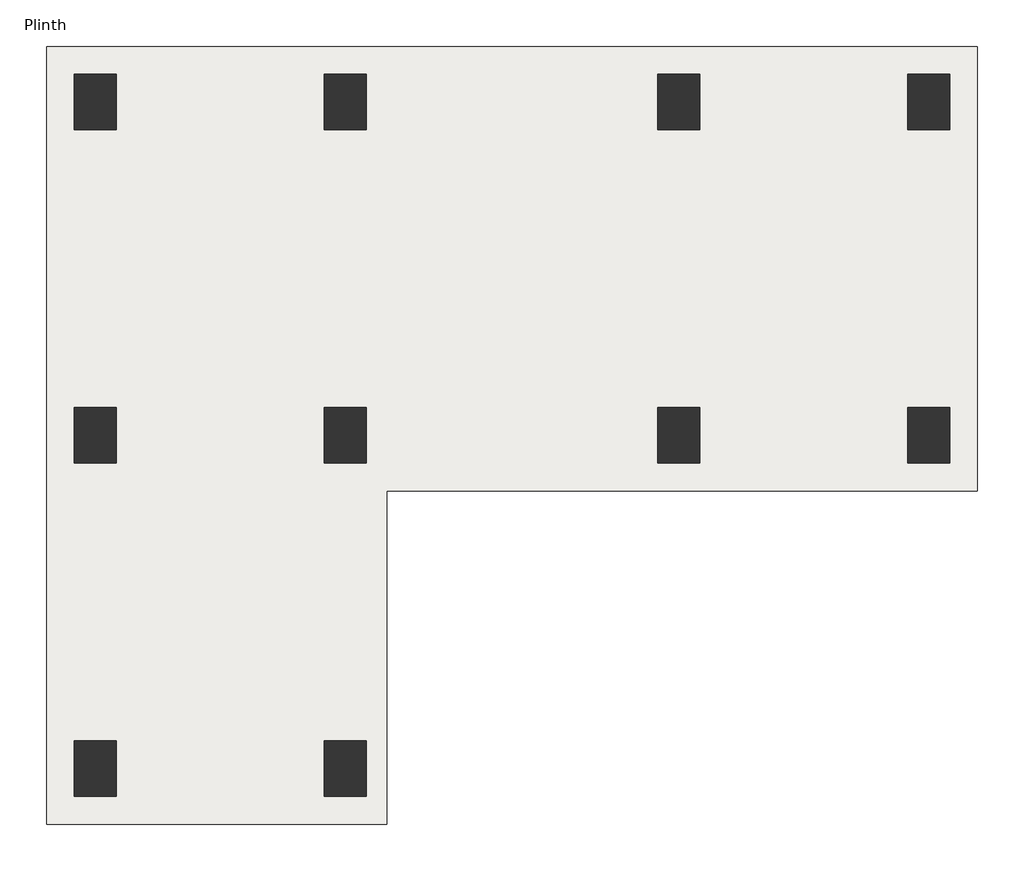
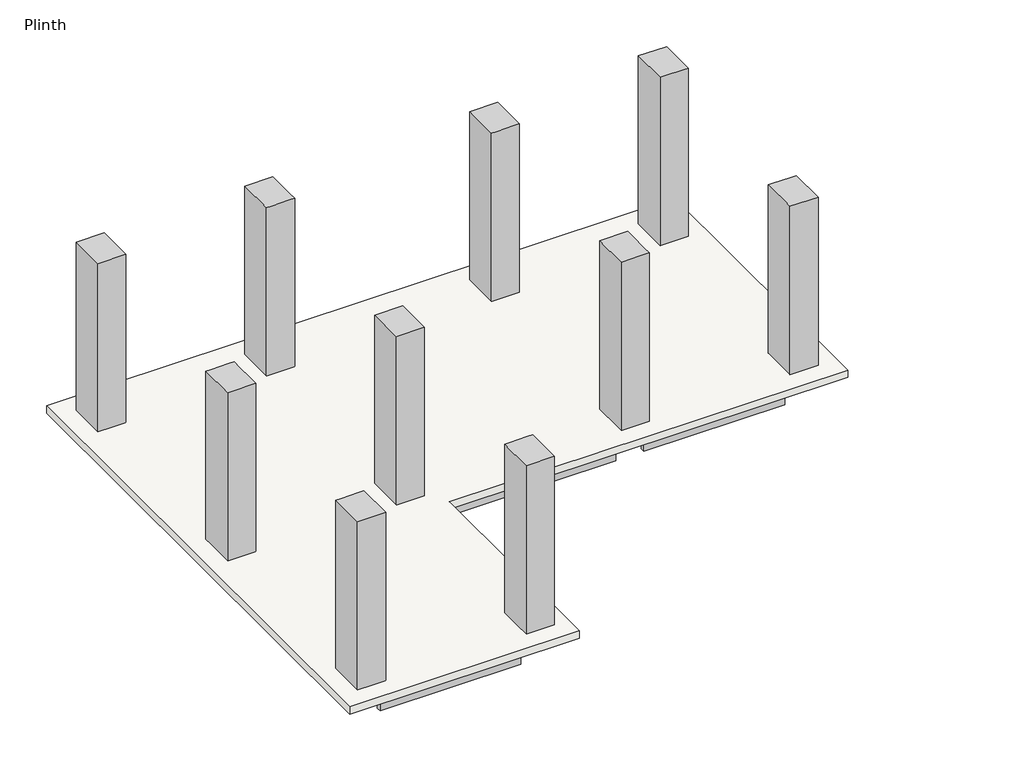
# One storey: 13 beams, 10 columns, 1 slab.
"""IFC4 building model written with IfcOpenShell, lengths in millimetres."""

import ifcopenshell
import ifcopenshell.guid

model = None  # the IFC model being written
_history = None  # IfcOwnerHistory: only IFC2X3 demands one
_inside = {}  # id of a spatial element -> (the spatial element, [elements in it])
_under = {}  # id of a project, library or spatial element -> (it, [spatial elements below it])
_declared = {}  # id of a project -> (the project, [libraries it declares])
_typed = {}  # id of a type object -> (the type object, [elements of that type])
_made_of = {}  # id of a material, layer set ... -> (it, [elements and type objects made of it])


def new_model(schema):
    """Start an empty IFC model of exactly this schema.

    Asked for "IFC4X3", IfcOpenShell would pick the latest addendum, in which some entities
    have other attributes; the version numbers below select the first issue.
    IFC2X3 requires an IfcOwnerHistory on every rooted entity: one is made here for all.
    """
    global model, _history
    if schema == "IFC4X3":
        model = ifcopenshell.file(schema_version=(4, 3, 0, 0))
    else:
        model = ifcopenshell.file(schema=schema)
    _inside.clear()
    _under.clear()
    _declared.clear()
    _typed.clear()
    _made_of.clear()
    _history = None
    if model.schema == "IFC2X3":
        org = make("IfcOrganization", Name="unknown")
        user = make(
            "IfcPersonAndOrganization",
            ThePerson=make("IfcPerson", FamilyName="unknown"),
            TheOrganization=org,
        )
        app = make(
            "IfcApplication",
            ApplicationDeveloper=org,
            Version="unknown",
            ApplicationFullName="unknown",
            ApplicationIdentifier="unknown",
        )
        _history = make(
            "IfcOwnerHistory",
            OwningUser=user,
            OwningApplication=app,
            ChangeAction="ADDED",
            CreationDate=0,
        )
    return model


def make(cls, **values):
    """One entity of the class cls with the attributes given. An attribute that is None is left unset."""
    return model.create_entity(
        cls, **{name: value for name, value in values.items() if value is not None}
    )


def rooted(cls, **values):
    """An entity with a GlobalId (a new one), such as an element, a storey or a relation."""
    return make(cls, GlobalId=ifcopenshell.guid.new(), OwnerHistory=_history, **values)


def si_unit(unit_type, name, prefix=None):
    """IfcSIUnit, for example si_unit("LENGTHUNIT", "METRE", prefix="MILLI")."""
    return make("IfcSIUnit", UnitType=unit_type, Prefix=prefix, Name=name)


def assignment(units):
    """IfcUnitAssignment: the units of a project."""
    return None if units is None else make("IfcUnitAssignment", Units=units)


def point(xyz):
    """IfcCartesianPoint."""
    return None if xyz is None else make("IfcCartesianPoint", Coordinates=xyz)


def direction(xyz):
    """IfcDirection."""
    return None if xyz is None else make("IfcDirection", DirectionRatios=xyz)


def frame(location, z_axis=None, x_axis=None):
    """IfcAxis2Placement3D, a coordinate frame: its origin and axes. An axis left out is left unset."""
    return make(
        "IfcAxis2Placement3D",
        Location=point(location),
        Axis=direction(z_axis),
        RefDirection=direction(x_axis),
    )


def origin():
    """The frame at (0, 0, 0) with its axes left unset."""
    return frame((0.0, 0.0, 0.0))


def place(relative_to, where):
    """IfcLocalPlacement: puts the frame where relative to a parent placement (None: the world)."""
    return make(
        "IfcLocalPlacement", PlacementRelTo=relative_to, RelativePlacement=where
    )


def context(
    kind, dimensions, precision=None, world=None, true_north=None, identifier=None
):
    """IfcGeometricRepresentationContext, for example the 3D "Model" context."""
    return make(
        "IfcGeometricRepresentationContext",
        ContextIdentifier=identifier,
        ContextType=kind,
        CoordinateSpaceDimension=dimensions,
        Precision=precision,
        WorldCoordinateSystem=world,
        TrueNorth=true_north,
    )


def project(units=None, contexts=None):
    """IfcProject with its units and contexts."""
    return rooted(
        "IfcProject",
        Name="project",
        RepresentationContexts=contexts,
        UnitsInContext=assignment(units),
    )


def spatial(cls, under=None, at=None, **own):
    """A site, building, storey or space (cls), placed at a placement, below another one or the project."""
    s = rooted(cls, ObjectPlacement=at, **own)
    if under is not None:
        _under.setdefault(under.id(), (under, []))[1].append(s)
    return s


def polyline(points):
    """IfcPolyline through the points."""
    return make("IfcPolyline", Points=[point(p) for p in points])


def outline(outer, holes=None, kind="AREA"):
    """IfcArbitraryClosedProfileDef: a profile drawn as a closed curve; with holes, ...WithVoids."""
    if holes is None:
        return make("IfcArbitraryClosedProfileDef", ProfileType=kind, OuterCurve=outer)
    return make(
        "IfcArbitraryProfileDefWithVoids",
        ProfileType=kind,
        OuterCurve=outer,
        InnerCurves=holes,
    )


def extrude(swept, where, along, depth):
    """IfcExtrudedAreaSolid: the profile swept, set in the frame where, extruded along a direction by depth."""
    return make(
        "IfcExtrudedAreaSolid",
        SweptArea=swept,
        Position=where,
        ExtrudedDirection=direction(along),
        Depth=depth,
    )


def faces_of(points, faces, orient=None, outer=None):
    """IfcFace entities. A face is a list of loops; a loop is a list of indices into points, from 0.

    orient and outer hold one flag for each loop. By default every Orientation is true, the
    first loop of a face is its IfcFaceOuterBound and the others are IfcFaceBound.
    """
    made = []
    for i, loops in enumerate(faces):
        bounds = []
        for j, loop in enumerate(loops):
            is_outer = j == 0 if outer is None else outer[i][j]
            bounds.append(
                make(
                    "IfcFaceOuterBound" if is_outer else "IfcFaceBound",
                    Bound=make("IfcPolyLoop", Polygon=[points[k] for k in loop]),
                    Orientation=True if orient is None else orient[i][j],
                )
            )
        made.append(make("IfcFace", Bounds=bounds))
    return made


def faceted_brep(points, faces, orient=None, outer=None, voids=None):
    """IfcFacetedBrep: a solid bounded by flat faces; with voids (closed shells), ...WithVoids."""
    shared = [point(p) for p in points]
    hull = make("IfcClosedShell", CfsFaces=faces_of(shared, faces, orient, outer))
    if voids is None:
        return make("IfcFacetedBrep", Outer=hull)
    return make(
        "IfcFacetedBrepWithVoids",
        Outer=hull,
        Voids=[
            make(cls, CfsFaces=faces_of(shared, fs, o, b)) for cls, fs, o, b in voids
        ],
    )


def shape(context_of_items, identifier, shape_type, items):
    """IfcShapeRepresentation: the items that make up one representation, for example the "Body"."""
    return make(
        "IfcShapeRepresentation",
        ContextOfItems=context_of_items,
        RepresentationIdentifier=identifier,
        RepresentationType=shape_type,
        Items=items,
    )


def made_of(thing, what):
    """Note that an element or type object is made of a material, layer set ...; save() writes the relation."""
    if what is not None:
        _made_of.setdefault(what.id(), (what, []))[1].append(thing)
    return thing


def element(
    cls,
    number,
    at=None,
    inside=None,
    cuts=None,
    type_object=None,
    material=None,
    context=None,
    identifier="Body",
    shape_type=None,
    held_by="IfcProductDefinitionShape",
    body=None,
    shapes=None,
    **own,
):
    """One element of the class cls, such as IfcWall. Its Tag is "e" and its number.

    at: its placement. inside: the storey or other place that contains it. cuts: it is an
    opening in that element (IfcRelVoidsElement). A single representation is given by context,
    identifier, shape_type and body (its items); several are given by shapes. held_by: the class
    of the entity that holds the representations. save() writes the other relations.
    """
    e = rooted(cls, Tag="e%d" % number, ObjectPlacement=at, **own)
    if body is not None:
        shapes = [shape(context, identifier, shape_type, body)]
    if shapes is not None:
        e.Representation = make(held_by, Representations=shapes)
    if inside is not None:
        _inside.setdefault(inside.id(), (inside, []))[1].append(e)
    if cuts is not None:
        rooted(
            "IfcRelVoidsElement", RelatingBuildingElement=cuts, RelatedOpeningElement=e
        )
    if type_object is not None:
        _typed.setdefault(type_object.id(), (type_object, []))[1].append(e)
    return made_of(e, material)


def aggregate(whole, parts):
    """IfcRelAggregates: a whole, such as a stair, and the parts it consists of."""
    return rooted("IfcRelAggregates", RelatingObject=whole, RelatedObjects=parts)


def save(model, path):
    """Write the relations noted so far, then the file.

    IfcRelAggregates (storeys below a building ...), IfcRelContainedInSpatialStructure (elements
    in a storey), IfcRelDefinesByType, IfcRelAssociatesMaterial and IfcRelDeclares: one each for
    every whole, place, type object, material and project.
    """
    for whole, parts in _under.values():
        aggregate(whole, parts)
    for where, things in _inside.values():
        rooted(
            "IfcRelContainedInSpatialStructure",
            RelatedElements=things,
            RelatingStructure=where,
        )
    for kind, things in _typed.values():
        rooted("IfcRelDefinesByType", RelatedObjects=things, RelatingType=kind)
    for what, things in _made_of.values():
        rooted("IfcRelAssociatesMaterial", RelatedObjects=things, RelatingMaterial=what)
    for by, libraries in _declared.values():
        rooted("IfcRelDeclares", RelatingContext=by, RelatedDefinitions=libraries)
    model.write(path)


model = new_model("IFC4")

# Units and contexts
model_context = context("Model", 3, world=origin())
ifc_project = project(units=[si_unit("LENGTHUNIT", "METRE", prefix="MILLI")], contexts=[model_context])

# Site, building, storey
site = spatial("IfcSite", under=ifc_project)
building = spatial("IfcBuilding", under=site)
storey = spatial("IfcBuildingStorey", under=building, Name="Plinth", Elevation=3048.0)

# Beams
placement = place(None, origin())
element("IfcBeam", 1, ObjectType="Concrete-Rectangular Beam : 12 x 24", at=placement, inside=storey, context=model_context, shape_type="SweptSolid", body=[
    extrude(outline(polyline([(-20798.018666, 15705.8753347), (-23084.018666, 15705.8753347), (-23084.018666, 15782.0753347), (-20798.018666, 15782.0753347), (-20798.018666, 15705.8753347)])), frame((0.0, 0.0, 2438.4), z_axis=(0.0, 0.0, 1.0), x_axis=(1.0, 0.0, 0.0)), (0.0, 0.0, 1.0), 482.6),
    extrude(outline(polyline([(-23084.018666, 16010.6753347), (-20798.018666, 16010.6753347), (-20798.018666, 15934.4753347), (-23084.018666, 15934.4753347), (-23084.018666, 16010.6753347)])), frame((0.0, 0.0, 2438.4), z_axis=(0.0, 0.0, 1.0), x_axis=(1.0, 0.0, 0.0)), (0.0, 0.0, 1.0), 482.6),
])
element("IfcBeam", 2, ObjectType="Concrete-Rectangular Beam : 12 x 24", at=placement, inside=storey, context=model_context, shape_type="SweptSolid", body=[
    extrude(outline(polyline([(-17140.418666, 15705.8753347), (-20340.818666, 15705.8753347), (-20340.818666, 15782.0753347), (-17140.418666, 15782.0753347), (-17140.418666, 15705.8753347)])), frame((0.0, 0.0, 2438.4), z_axis=(0.0, 0.0, 1.0), x_axis=(1.0, 0.0, 0.0)), (0.0, 0.0, 1.0), 482.6),
    extrude(outline(polyline([(-20340.818666, 16010.6753347), (-17140.418666, 16010.6753347), (-17140.418666, 15934.4753347), (-20340.818666, 15934.4753347), (-20340.818666, 16010.6753347)])), frame((0.0, 0.0, 2438.4), z_axis=(0.0, 0.0, 1.0), x_axis=(1.0, 0.0, 0.0)), (0.0, 0.0, 1.0), 482.6),
])
element("IfcBeam", 3, ObjectType="Concrete-Rectangular Beam : 12 x 24", at=placement, inside=storey, context=model_context, shape_type="SweptSolid", body=[
    extrude(outline(polyline([(-14397.218666, 15705.8753347), (-16683.218666, 15705.8753347), (-16683.218666, 15782.0753347), (-14397.218666, 15782.0753347), (-14397.218666, 15705.8753347)])), frame((0.0, 0.0, 2438.4), z_axis=(0.0, 0.0, 1.0), x_axis=(1.0, 0.0, 0.0)), (0.0, 0.0, 1.0), 482.6),
    extrude(outline(polyline([(-16683.218666, 16010.6753347), (-14397.218666, 16010.6753347), (-14397.218666, 15934.4753347), (-16683.218666, 15934.4753347), (-16683.218666, 16010.6753347)])), frame((0.0, 0.0, 2438.4), z_axis=(0.0, 0.0, 1.0), x_axis=(1.0, 0.0, 0.0)), (0.0, 0.0, 1.0), 482.6),
])
element("IfcBeam", 4, ObjectType="Concrete-Rectangular Beam : 12 x 24", at=placement, inside=storey, context=model_context, shape_type="SweptSolid", body=[
    extrude(outline(polyline([(-14321.018666, 12505.4753347), (-14321.018666, 15553.4753347), (-14244.818666, 15553.4753347), (-14244.818666, 12505.4753347), (-14321.018666, 12505.4753347)])), frame((0.0, 0.0, 2438.4), z_axis=(0.0, 0.0, 1.0), x_axis=(1.0, 0.0, 0.0)), (0.0, 0.0, 1.0), 482.6),
    extrude(outline(polyline([(-14016.218666, 15553.4753347), (-14016.218666, 12505.4753347), (-14092.418666, 12505.4753347), (-14092.418666, 15553.4753347), (-14016.218666, 15553.4753347)])), frame((0.0, 0.0, 2438.4), z_axis=(0.0, 0.0, 1.0), x_axis=(1.0, 0.0, 0.0)), (0.0, 0.0, 1.0), 482.6),
])
element("IfcBeam", 5, ObjectType="Concrete-Rectangular Beam : 12 x 24", at=placement, inside=storey, context=model_context, shape_type="SweptSolid", body=[
    extrude(outline(polyline([(-16683.218666, 12353.0753347), (-14397.218666, 12353.0753347), (-14397.218666, 12276.8753347), (-16683.218666, 12276.8753347), (-16683.218666, 12353.0753347)])), frame((0.0, 0.0, 2438.4), z_axis=(0.0, 0.0, 1.0), x_axis=(1.0, 0.0, 0.0)), (0.0, 0.0, 1.0), 482.6),
    extrude(outline(polyline([(-14397.218666, 12048.2753347), (-16683.218666, 12048.2753347), (-16683.218666, 12124.4753347), (-14397.218666, 12124.4753347), (-14397.218666, 12048.2753347)])), frame((0.0, 0.0, 2438.4), z_axis=(0.0, 0.0, 1.0), x_axis=(1.0, 0.0, 0.0)), (0.0, 0.0, 1.0), 482.6),
])
element("IfcBeam", 6, ObjectType="Concrete-Rectangular Beam : 12 x 24", at=placement, inside=storey, context=model_context, shape_type="SweptSolid", body=[
    extrude(outline(polyline([(-20340.818666, 12353.0753347), (-17140.418666, 12353.0753347), (-17140.418666, 12276.8753347), (-20340.818666, 12276.8753347), (-20340.818666, 12353.0753347)])), frame((0.0, 0.0, 2438.4), z_axis=(0.0, 0.0, 1.0), x_axis=(1.0, 0.0, 0.0)), (0.0, 0.0, 1.0), 482.6),
    extrude(outline(polyline([(-17140.418666, 12048.2753347), (-20340.818666, 12048.2753347), (-20340.818666, 12124.4753347), (-17140.418666, 12124.4753347), (-17140.418666, 12048.2753347)])), frame((0.0, 0.0, 2438.4), z_axis=(0.0, 0.0, 1.0), x_axis=(1.0, 0.0, 0.0)), (0.0, 0.0, 1.0), 482.6),
])
element("IfcBeam", 7, ObjectType="Concrete-Rectangular Beam : 12 x 24", at=placement, inside=storey, context=model_context, shape_type="SweptSolid", body=[
    extrude(outline(polyline([(-20721.818666, 8847.8753347), (-20721.818666, 11895.8753347), (-20645.618666, 11895.8753347), (-20645.618666, 8847.8753347), (-20721.818666, 8847.8753347)])), frame((0.0, 0.0, 2438.4), z_axis=(0.0, 0.0, 1.0), x_axis=(1.0, 0.0, 0.0)), (0.0, 0.0, 1.0), 482.6),
    extrude(outline(polyline([(-20417.018666, 11895.8753347), (-20417.018666, 8847.8753347), (-20493.218666, 8847.8753347), (-20493.218666, 11895.8753347), (-20417.018666, 11895.8753347)])), frame((0.0, 0.0, 2438.4), z_axis=(0.0, 0.0, 1.0), x_axis=(1.0, 0.0, 0.0)), (0.0, 0.0, 1.0), 482.6),
])
element("IfcBeam", 8, ObjectType="Concrete-Rectangular Beam : 12 x 24", at=placement, inside=storey, context=model_context, shape_type="SweptSolid", body=[
    extrude(outline(polyline([(-23084.018666, 8695.4753347), (-20798.018666, 8695.4753347), (-20798.018666, 8619.2753347), (-23084.018666, 8619.2753347), (-23084.018666, 8695.4753347)])), frame((0.0, 0.0, 2438.4), z_axis=(0.0, 0.0, 1.0), x_axis=(1.0, 0.0, 0.0)), (0.0, 0.0, 1.0), 482.6),
    extrude(outline(polyline([(-20798.018666, 8390.6753347), (-23084.018666, 8390.6753347), (-23084.018666, 8466.8753347), (-20798.018666, 8466.8753347), (-20798.018666, 8390.6753347)])), frame((0.0, 0.0, 2438.4), z_axis=(0.0, 0.0, 1.0), x_axis=(1.0, 0.0, 0.0)), (0.0, 0.0, 1.0), 482.6),
])
element("IfcBeam", 9, ObjectType="Concrete-Rectangular Beam : 12 x 24", at=placement, inside=storey, context=model_context, shape_type="SweptSolid", body=[
    extrude(outline(polyline([(-23160.218666, 11895.8753347), (-23160.218666, 8847.8753347), (-23236.418666, 8847.8753347), (-23236.418666, 11895.8753347), (-23160.218666, 11895.8753347)])), frame((0.0, 0.0, 2438.4), z_axis=(0.0, 0.0, 1.0), x_axis=(1.0, 0.0, 0.0)), (0.0, 0.0, 1.0), 482.6),
    extrude(outline(polyline([(-23465.018666, 8847.8753347), (-23465.018666, 11895.8753347), (-23388.818666, 11895.8753347), (-23388.818666, 8847.8753347), (-23465.018666, 8847.8753347)])), frame((0.0, 0.0, 2438.4), z_axis=(0.0, 0.0, 1.0), x_axis=(1.0, 0.0, 0.0)), (0.0, 0.0, 1.0), 482.6),
])
element("IfcBeam", 10, ObjectType="Concrete-Rectangular Beam : 12 x 24", at=placement, inside=storey, context=model_context, shape_type="SweptSolid", body=[
    extrude(outline(polyline([(-23160.218666, 15553.4753347), (-23160.218666, 12505.4753347), (-23236.418666, 12505.4753347), (-23236.418666, 15553.4753347), (-23160.218666, 15553.4753347)])), frame((0.0, 0.0, 2438.4), z_axis=(0.0, 0.0, 1.0), x_axis=(1.0, 0.0, 0.0)), (0.0, 0.0, 1.0), 482.6),
    extrude(outline(polyline([(-23465.018666, 12505.4753347), (-23465.018666, 15553.4753347), (-23388.818666, 15553.4753347), (-23388.818666, 12505.4753347), (-23465.018666, 12505.4753347)])), frame((0.0, 0.0, 2438.4), z_axis=(0.0, 0.0, 1.0), x_axis=(1.0, 0.0, 0.0)), (0.0, 0.0, 1.0), 482.6),
])
element("IfcBeam", 11, ObjectType="Concrete-Rectangular Beam : 12 x 24", at=placement, inside=storey, context=model_context, shape_type="SweptSolid", body=[
    extrude(outline(polyline([(-16759.418666, 12505.4753347), (-17064.218666, 12505.4753347), (-17064.218666, 15553.4753347), (-16759.418666, 15553.4753347), (-16759.418666, 12505.4753347)])), frame((0.0, 0.0, 2438.4), z_axis=(0.0, 0.0, 1.0), x_axis=(1.0, 0.0, 0.0)), (0.0, 0.0, 1.0), 482.6),
])
element("IfcBeam", 12, ObjectType="Concrete-Rectangular Beam : 12 x 24", at=placement, inside=storey, context=model_context, shape_type="SweptSolid", body=[
    extrude(outline(polyline([(-20721.818666, 15553.4753347), (-20417.018666, 15553.4753347), (-20417.018666, 12505.4753347), (-20721.818666, 12505.4753347), (-20721.818666, 15553.4753347)])), frame((0.0, 0.0, 2438.4), z_axis=(0.0, 0.0, 1.0), x_axis=(1.0, 0.0, 0.0)), (0.0, 0.0, 1.0), 482.6),
])
element("IfcBeam", 13, ObjectType="Concrete-Rectangular Beam : 12 x 24", at=placement, inside=storey, context=model_context, shape_type="SweptSolid", body=[
    extrude(outline(polyline([(-23084.018666, 12048.2753347), (-23084.018666, 12353.0753347), (-20798.018666, 12353.0753347), (-20798.018666, 12048.2753347), (-23084.018666, 12048.2753347)])), frame((0.0, 0.0, 2438.4), z_axis=(0.0, 0.0, 1.0), x_axis=(1.0, 0.0, 0.0)), (0.0, 0.0, 1.0), 482.6),
])

# Columns
element("IfcColumn", 14, ObjectType="Concrete-Rectangular-Column : 18 x 24", at=placement, inside=storey, context=model_context, shape_type="Brep", body=[
    faceted_brep([(-23084.018666, 16163.0753347, 3048.0), (-23084.018666, 15553.4753347, 3048.0), (-23541.218666, 15553.4753347, 3048.0), (-23541.218666, 16163.0753347, 3048.0), (-23084.018666, 16163.0753347, 5943.6), (-23084.018666, 16010.6753347, 5943.6), (-23084.018666, 15705.8753347, 5943.6), (-23084.018666, 15553.4753347, 5943.6), (-23160.218666, 15553.4753347, 5943.6), (-23465.018666, 15553.4753347, 5943.6), (-23541.218666, 15553.4753347, 5943.6), (-23541.218666, 16163.0753347, 5943.6)], [[[0, 1, 2, 3]], [[1, 0, 4, 5, 6, 7]], [[2, 1, 7, 8, 9, 10]], [[3, 2, 10, 11]], [[0, 3, 11, 4]], [[7, 6, 5, 4, 11, 10, 9, 8]]]),
])
element("IfcColumn", 15, ObjectType="Concrete-Rectangular-Column : 18 x 24", at=placement, inside=storey, context=model_context, shape_type="Brep", body=[
    faceted_brep([(-20340.818666, 16163.0753347, 3048.0), (-20340.818666, 15553.4753347, 3048.0), (-20798.018666, 15553.4753347, 3048.0), (-20798.018666, 16163.0753347, 3048.0), (-20340.818666, 16163.0753347, 5943.6), (-20340.818666, 16010.6753347, 5943.6), (-20340.818666, 15705.8753347, 5943.6), (-20340.818666, 15553.4753347, 5943.6), (-20417.018666, 15553.4753347, 5943.6), (-20721.818666, 15553.4753347, 5943.6), (-20798.018666, 15553.4753347, 5943.6), (-20798.018666, 15705.8753347, 5943.6), (-20798.018666, 16010.6753347, 5943.6), (-20798.018666, 16163.0753347, 5943.6)], [[[0, 1, 2, 3]], [[1, 0, 4, 5, 6, 7]], [[2, 1, 7, 8, 9, 10]], [[3, 2, 10, 11, 12, 13]], [[0, 3, 13, 4]], [[7, 6, 5, 4, 13, 12, 11, 10, 9, 8]]]),
])
element("IfcColumn", 16, ObjectType="Concrete-Rectangular-Column : 18 x 24", at=placement, inside=storey, context=model_context, shape_type="Brep", body=[
    faceted_brep([(-16683.218666, 16163.0753347, 3048.0), (-16683.218666, 15553.4753347, 3048.0), (-17140.418666, 15553.4753347, 3048.0), (-17140.418666, 16163.0753347, 3048.0), (-16683.218666, 16163.0753347, 5943.6), (-16683.218666, 16010.6753347, 5943.6), (-16683.218666, 15705.8753347, 5943.6), (-16683.218666, 15553.4753347, 5943.6), (-16759.418666, 15553.4753347, 5943.6), (-17064.218666, 15553.4753347, 5943.6), (-17140.418666, 15553.4753347, 5943.6), (-17140.418666, 15705.8753347, 5943.6), (-17140.418666, 16010.6753347, 5943.6), (-17140.418666, 16163.0753347, 5943.6)], [[[0, 1, 2, 3]], [[1, 0, 4, 5, 6, 7]], [[2, 1, 7, 8, 9, 10]], [[3, 2, 10, 11, 12, 13]], [[0, 3, 13, 4]], [[7, 6, 5, 4, 13, 12, 11, 10, 9, 8]]]),
])
element("IfcColumn", 17, ObjectType="Concrete-Rectangular-Column : 18 x 24", at=placement, inside=storey, context=model_context, shape_type="Brep", body=[
    faceted_brep([(-13940.018666, 16163.0753347, 3048.0), (-13940.018666, 15553.4753347, 3048.0), (-14397.218666, 15553.4753347, 3048.0), (-14397.218666, 16163.0753347, 3048.0), (-13940.018666, 16163.0753347, 5943.6), (-13940.018666, 15553.4753347, 5943.6), (-14016.218666, 15553.4753347, 5943.6), (-14321.018666, 15553.4753347, 5943.6), (-14397.218666, 15553.4753347, 5943.6), (-14397.218666, 15705.8753347, 5943.6), (-14397.218666, 16010.6753347, 5943.6), (-14397.218666, 16163.0753347, 5943.6)], [[[0, 1, 2, 3]], [[1, 0, 4, 5]], [[2, 1, 5, 6, 7, 8]], [[3, 2, 8, 9, 10, 11]], [[0, 3, 11, 4]], [[5, 4, 11, 10, 9, 8, 7, 6]]]),
])
element("IfcColumn", 18, ObjectType="Concrete-Rectangular-Column : 18 x 24", at=placement, inside=storey, context=model_context, shape_type="Brep", body=[
    faceted_brep([(-23084.018666, 12505.4753347, 3048.0), (-23084.018666, 11895.8753347, 3048.0), (-23541.218666, 11895.8753347, 3048.0), (-23541.218666, 12505.4753347, 3048.0), (-23084.018666, 12505.4753347, 5943.6), (-23084.018666, 12353.0753347, 5943.6), (-23084.018666, 12048.2753347, 5943.6), (-23084.018666, 11895.8753347, 5943.6), (-23160.218666, 11895.8753347, 5943.6), (-23465.018666, 11895.8753347, 5943.6), (-23541.218666, 11895.8753347, 5943.6), (-23541.218666, 12505.4753347, 5943.6), (-23465.018666, 12505.4753347, 5943.6), (-23160.218666, 12505.4753347, 5943.6)], [[[0, 1, 2, 3]], [[1, 0, 4, 5, 6, 7]], [[2, 1, 7, 8, 9, 10]], [[3, 2, 10, 11]], [[0, 3, 11, 12, 13, 4]], [[7, 6, 5, 4, 13, 12, 11, 10, 9, 8]]]),
])
element("IfcColumn", 19, ObjectType="Concrete-Rectangular-Column : 18 x 24", at=placement, inside=storey, context=model_context, shape_type="Brep", body=[
    faceted_brep([(-20340.818666, 12505.4753347, 3048.0), (-20340.818666, 11895.8753347, 3048.0), (-20798.018666, 11895.8753347, 3048.0), (-20798.018666, 12505.4753347, 3048.0), (-20340.818666, 12505.4753347, 5943.6), (-20340.818666, 12353.0753347, 5943.6), (-20340.818666, 12048.2753347, 5943.6), (-20340.818666, 11895.8753347, 5943.6), (-20417.018666, 11895.8753347, 5943.6), (-20721.818666, 11895.8753347, 5943.6), (-20798.018666, 11895.8753347, 5943.6), (-20798.018666, 12048.2753347, 5943.6), (-20798.018666, 12353.0753347, 5943.6), (-20798.018666, 12505.4753347, 5943.6), (-20721.818666, 12505.4753347, 5943.6), (-20417.018666, 12505.4753347, 5943.6)], [[[0, 1, 2, 3]], [[1, 0, 4, 5, 6, 7]], [[2, 1, 7, 8, 9, 10]], [[3, 2, 10, 11, 12, 13]], [[0, 3, 13, 14, 15, 4]], [[7, 6, 5, 4, 15, 14, 13, 12, 11, 10, 9, 8]]]),
])
element("IfcColumn", 20, ObjectType="Concrete-Rectangular-Column : 18 x 24", at=placement, inside=storey, context=model_context, shape_type="Brep", body=[
    faceted_brep([(-16683.218666, 12505.4753347, 3048.0), (-16683.218666, 11895.8753347, 3048.0), (-17140.418666, 11895.8753347, 3048.0), (-17140.418666, 12505.4753347, 3048.0), (-16683.218666, 12505.4753347, 5943.6), (-16683.218666, 12353.0753347, 5943.6), (-16683.218666, 12048.2753347, 5943.6), (-16683.218666, 11895.8753347, 5943.6), (-17140.418666, 11895.8753347, 5943.6), (-17140.418666, 12048.2753347, 5943.6), (-17140.418666, 12353.0753347, 5943.6), (-17140.418666, 12505.4753347, 5943.6), (-17064.218666, 12505.4753347, 5943.6), (-16759.418666, 12505.4753347, 5943.6)], [[[0, 1, 2, 3]], [[1, 0, 4, 5, 6, 7]], [[2, 1, 7, 8]], [[3, 2, 8, 9, 10, 11]], [[0, 3, 11, 12, 13, 4]], [[7, 6, 5, 4, 13, 12, 11, 10, 9, 8]]]),
])
element("IfcColumn", 21, ObjectType="Concrete-Rectangular-Column : 18 x 24", at=placement, inside=storey, context=model_context, shape_type="Brep", body=[
    faceted_brep([(-13940.018666, 12505.4753347, 3048.0), (-13940.018666, 11895.8753347, 3048.0), (-14397.218666, 11895.8753347, 3048.0), (-14397.218666, 12505.4753347, 3048.0), (-13940.018666, 12505.4753347, 5943.6), (-13940.018666, 11895.8753347, 5943.6), (-14397.218666, 11895.8753347, 5943.6), (-14397.218666, 12048.2753347, 5943.6), (-14397.218666, 12353.0753347, 5943.6), (-14397.218666, 12505.4753347, 5943.6), (-14321.018666, 12505.4753347, 5943.6), (-14016.218666, 12505.4753347, 5943.6)], [[[0, 1, 2, 3]], [[1, 0, 4, 5]], [[2, 1, 5, 6]], [[3, 2, 6, 7, 8, 9]], [[0, 3, 9, 10, 11, 4]], [[5, 4, 11, 10, 9, 8, 7, 6]]]),
])
element("IfcColumn", 22, ObjectType="Concrete-Rectangular-Column : 18 x 24", at=placement, inside=storey, context=model_context, shape_type="Brep", body=[
    faceted_brep([(-23084.018666, 8847.8753347, 3048.0), (-23084.018666, 8238.2753347, 3048.0), (-23541.218666, 8238.2753347, 3048.0), (-23541.218666, 8847.8753347, 3048.0), (-23084.018666, 8847.8753347, 5943.6), (-23084.018666, 8695.4753347, 5943.6), (-23084.018666, 8390.6753347, 5943.6), (-23084.018666, 8238.2753347, 5943.6), (-23541.218666, 8238.2753347, 5943.6), (-23541.218666, 8847.8753347, 5943.6), (-23465.018666, 8847.8753347, 5943.6), (-23160.218666, 8847.8753347, 5943.6)], [[[0, 1, 2, 3]], [[1, 0, 4, 5, 6, 7]], [[2, 1, 7, 8]], [[3, 2, 8, 9]], [[0, 3, 9, 10, 11, 4]], [[7, 6, 5, 4, 11, 10, 9, 8]]]),
])
element("IfcColumn", 23, ObjectType="Concrete-Rectangular-Column : 18 x 24", at=placement, inside=storey, context=model_context, shape_type="Brep", body=[
    faceted_brep([(-20340.818666, 8847.8753347, 3048.0), (-20340.818666, 8238.2753347, 3048.0), (-20798.018666, 8238.2753347, 3048.0), (-20798.018666, 8847.8753347, 3048.0), (-20340.818666, 8847.8753347, 5943.6), (-20340.818666, 8238.2753347, 5943.6), (-20798.018666, 8238.2753347, 5943.6), (-20798.018666, 8390.6753347, 5943.6), (-20798.018666, 8695.4753347, 5943.6), (-20798.018666, 8847.8753347, 5943.6), (-20721.818666, 8847.8753347, 5943.6), (-20417.018666, 8847.8753347, 5943.6)], [[[0, 1, 2, 3]], [[1, 0, 4, 5]], [[2, 1, 5, 6]], [[3, 2, 6, 7, 8, 9]], [[0, 3, 9, 10, 11, 4]], [[5, 4, 11, 10, 9, 8, 7, 6]]]),
])

# Slab
element("IfcSlab", 24, ObjectType="3\" LW Concrete on 2\" Metal Deck", at=placement, inside=storey, context=model_context, shape_type="SweptSolid", body=[
    extrude(outline(polyline([(-23846.018666, 7933.4753347), (-23846.018666, 16467.8753347), (-13635.218666, 16467.8753347), (-13635.218666, 11591.0753347), (-20112.218666, 11591.0753347), (-20112.218666, 7933.4753347), (-23846.018666, 7933.4753347)])), frame((0.0, 0.0, 2921.0), z_axis=(0.0, 0.0, 1.0), x_axis=(1.0, 0.0, 0.0)), (0.0, 0.0, 1.0), 127.0),
])

save(model, "model.ifc")
